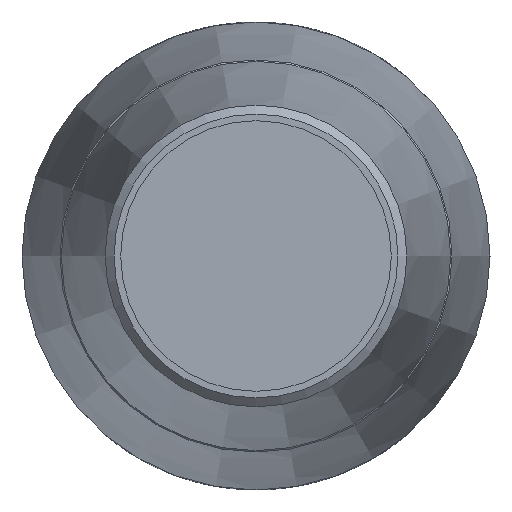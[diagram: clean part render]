
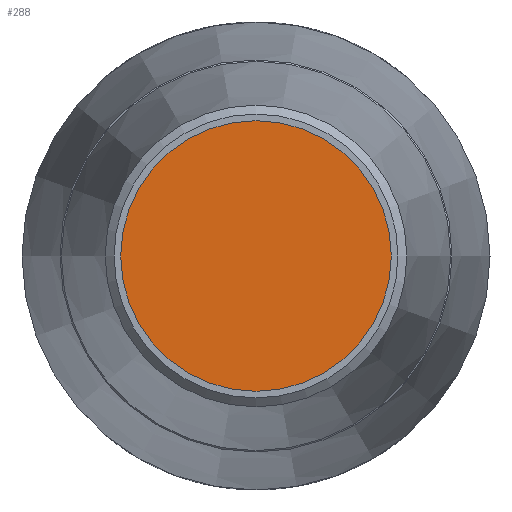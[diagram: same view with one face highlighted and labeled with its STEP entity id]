
A CAD part, left-side view. The second image highlights one B-rep face of the part: STEP entity #288.
In plain terms, the highlighted planar face has unit normal (-1, 0, 0).
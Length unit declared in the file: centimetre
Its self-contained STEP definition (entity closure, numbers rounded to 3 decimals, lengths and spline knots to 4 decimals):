
#42=PLANE('',#323);
#73=FACE_OUTER_BOUND('',#104,.T.);
#104=EDGE_LOOP('',(#210));
#132=CIRCLE('',#322,3.325);
#148=VERTEX_POINT('',#455);
#172=EDGE_CURVE('',#148,#148,#132,.T.);
#210=ORIENTED_EDGE('',*,*,#172,.T.);
#288=ADVANCED_FACE('',(#73),#42,.T.);
#322=AXIS2_PLACEMENT_3D('',#456,#383,#384);
#323=AXIS2_PLACEMENT_3D('',#457,#385,#386);
#383=DIRECTION('center_axis',(-1.,0.,0.));
#384=DIRECTION('ref_axis',(0.,0.,1.));
#385=DIRECTION('center_axis',(-1.,0.,0.));
#386=DIRECTION('ref_axis',(0.,0.,1.));
#455=CARTESIAN_POINT('',(-31.35,-3.325,0.));
#456=CARTESIAN_POINT('Origin',(-31.35,0.,0.));
#457=CARTESIAN_POINT('Origin',(-31.35,0.,0.));
